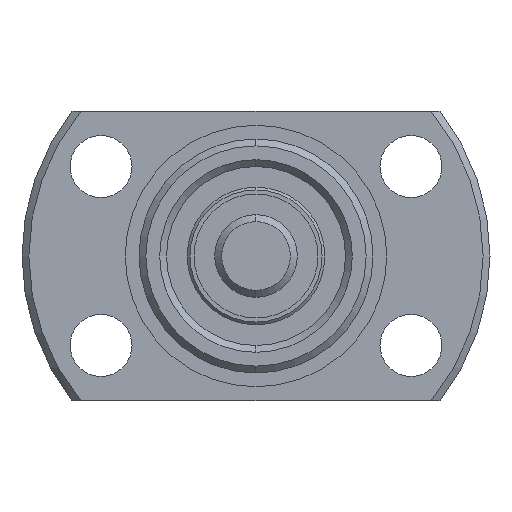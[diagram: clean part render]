
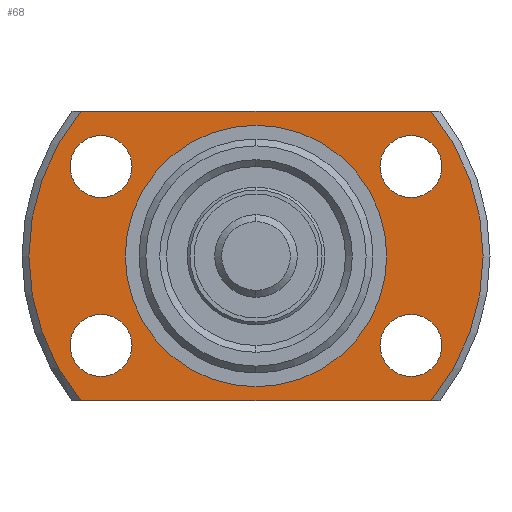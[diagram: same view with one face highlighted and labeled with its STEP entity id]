
A CAD part, left-side view. The second image highlights one B-rep face of the part: STEP entity #68.
In plain terms, the highlighted planar face has unit normal (-1, 0, 0).
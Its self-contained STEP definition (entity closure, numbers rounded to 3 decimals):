
#68 = ADVANCED_FACE ( 'NONE', ( #2723, #2724, #2736, #2734, #2721, #2725 ), #750, .T. ) ;
#185 = AXIS2_PLACEMENT_3D ( 'NONE', #2244, #2232, #2233 ) ;
#186 = AXIS2_PLACEMENT_3D ( 'NONE', #2240, #2220, #2243 ) ;
#188 = AXIS2_PLACEMENT_3D ( 'NONE', #2272, #2274, #2286 ) ;
#190 = AXIS2_PLACEMENT_3D ( 'NONE', #2297, #2303, #2304 ) ;
#196 = AXIS2_PLACEMENT_3D ( 'NONE', #2076, #2070, #2075 ) ;
#220 = AXIS2_PLACEMENT_3D ( 'NONE', #2194, #2193, #2192 ) ;
#221 = AXIS2_PLACEMENT_3D ( 'NONE', #2181, #2179, #2178 ) ;
#222 = AXIS2_PLACEMENT_3D ( 'NONE', #2163, #2162, #2160 ) ;
#223 = AXIS2_PLACEMENT_3D ( 'NONE', #2159, #2156, #2155 ) ;
#224 = AXIS2_PLACEMENT_3D ( 'NONE', #2154, #2153, #2148 ) ;
#225 = AXIS2_PLACEMENT_3D ( 'NONE', #2143, #2142, #2141 ) ;
#226 = AXIS2_PLACEMENT_3D ( 'NONE', #2133, #2132, #2130 ) ;
#385 = AXIS2_PLACEMENT_3D ( 'NONE', #748, #754, #747 ) ;
#524 = VERTEX_POINT ( 'NONE', #1570 ) ;
#532 = VERTEX_POINT ( 'NONE', #1563 ) ;
#549 = VERTEX_POINT ( 'NONE', #1541 ) ;
#552 = VERTEX_POINT ( 'NONE', #1535 ) ;
#576 = VERTEX_POINT ( 'NONE', #1516 ) ;
#579 = VERTEX_POINT ( 'NONE', #1517 ) ;
#593 = VERTEX_POINT ( 'NONE', #1510 ) ;
#595 = VERTEX_POINT ( 'NONE', #1496 ) ;
#600 = VERTEX_POINT ( 'NONE', #1491 ) ;
#605 = VERTEX_POINT ( 'NONE', #1487 ) ;
#608 = VERTEX_POINT ( 'NONE', #1490 ) ;
#632 = VERTEX_POINT ( 'NONE', #1961 ) ;
#637 = VERTEX_POINT ( 'NONE', #1962 ) ;
#747 = DIRECTION ( 'NONE',  ( 0., 0., 1. ) ) ;
#748 = CARTESIAN_POINT ( 'NONE',  ( -5., 16.5, 0. ) ) ;
#750 = PLANE ( 'NONE',  #385 ) ;
#754 = DIRECTION ( 'NONE',  ( -1., 0., 0. ) ) ;
#905 = VECTOR ( 'NONE', #2129, 1000. ) ;
#907 = VECTOR ( 'NONE', #2144, 1000. ) ;
#909 = LINE ( 'NONE', #2147, #907 ) ;
#910 = CIRCLE ( 'NONE', #226, 9.5 ) ;
#911 = CIRCLE ( 'NONE', #225, 2.25 ) ;
#912 = CIRCLE ( 'NONE', #224, 2.25 ) ;
#913 = CIRCLE ( 'NONE', #223, 2.25 ) ;
#914 = CIRCLE ( 'NONE', #221, 16.5 ) ;
#915 = CIRCLE ( 'NONE', #222, 2.25 ) ;
#917 = LINE ( 'NONE', #2140, #905 ) ;
#920 = CIRCLE ( 'NONE', #220, 16.5 ) ;
#990 = CIRCLE ( 'NONE', #196, 9.5 ) ;
#1011 = CIRCLE ( 'NONE', #190, 2.25 ) ;
#1015 = CIRCLE ( 'NONE', #186, 2.25 ) ;
#1017 = CIRCLE ( 'NONE', #185, 2.25 ) ;
#1024 = CIRCLE ( 'NONE', #188, 2.25 ) ;
#1076 = ORIENTED_EDGE ( 'NONE', *, *, #2382, .T. ) ;
#1077 = ORIENTED_EDGE ( 'NONE', *, *, #2435, .F. ) ;
#1078 = ORIENTED_EDGE ( 'NONE', *, *, #2437, .F. ) ;
#1079 = ORIENTED_EDGE ( 'NONE', *, *, #2443, .F. ) ;
#1086 = ORIENTED_EDGE ( 'NONE', *, *, #2446, .T. ) ;
#1089 = ORIENTED_EDGE ( 'NONE', *, *, #2444, .T. ) ;
#1091 = ORIENTED_EDGE ( 'NONE', *, *, #2445, .T. ) ;
#1487 = CARTESIAN_POINT ( 'NONE',  ( -5., 11.258, -4.25 ) ) ;
#1490 = CARTESIAN_POINT ( 'NONE',  ( -5., 12.728, 10.5 ) ) ;
#1491 = CARTESIAN_POINT ( 'NONE',  ( -5., -12.728, 10.5 ) ) ;
#1496 = CARTESIAN_POINT ( 'NONE',  ( -5., -11.258, 4.25 ) ) ;
#1510 = CARTESIAN_POINT ( 'NONE',  ( -5., 11.258, 4.25 ) ) ;
#1516 = CARTESIAN_POINT ( 'NONE',  ( -5., 12.728, -10.5 ) ) ;
#1517 = CARTESIAN_POINT ( 'NONE',  ( -5., -12.728, -10.5 ) ) ;
#1535 = CARTESIAN_POINT ( 'NONE',  ( -5., 0., 9.5 ) ) ;
#1541 = CARTESIAN_POINT ( 'NONE',  ( -5., 0., -9.5 ) ) ;
#1563 = CARTESIAN_POINT ( 'NONE',  ( -5., -11.258, -8.75 ) ) ;
#1570 = CARTESIAN_POINT ( 'NONE',  ( -5., -11.258, 8.75 ) ) ;
#1960 = CARTESIAN_POINT ( 'NONE',  ( -5., -11.258, -4.25 ) ) ;
#1961 = CARTESIAN_POINT ( 'NONE',  ( -5., 11.258, 8.75 ) ) ;
#1962 = CARTESIAN_POINT ( 'NONE',  ( -5., 11.258, -8.75 ) ) ;
#2070 = DIRECTION ( 'NONE',  ( 1., 0., 0. ) ) ;
#2075 = DIRECTION ( 'NONE',  ( 0., 0., -1. ) ) ;
#2076 = CARTESIAN_POINT ( 'NONE',  ( -5., 0., 0. ) ) ;
#2129 = DIRECTION ( 'NONE',  ( 0., -1., 0. ) ) ;
#2130 = DIRECTION ( 'NONE',  ( 0., 0., -1. ) ) ;
#2132 = DIRECTION ( 'NONE',  ( 1., 0., 0. ) ) ;
#2133 = CARTESIAN_POINT ( 'NONE',  ( -5., 0., 0. ) ) ;
#2140 = CARTESIAN_POINT ( 'NONE',  ( -5., 16.5, -10.5 ) ) ;
#2141 = DIRECTION ( 'NONE',  ( 0., 0., 1. ) ) ;
#2142 = DIRECTION ( 'NONE',  ( -1., 0., 0. ) ) ;
#2143 = CARTESIAN_POINT ( 'NONE',  ( -5., 11.258, -6.5 ) ) ;
#2144 = DIRECTION ( 'NONE',  ( 0., 1., 0. ) ) ;
#2147 = CARTESIAN_POINT ( 'NONE',  ( -5., 16.5, 10.5 ) ) ;
#2148 = DIRECTION ( 'NONE',  ( 0., 0., 1. ) ) ;
#2153 = DIRECTION ( 'NONE',  ( -1., 0., 0. ) ) ;
#2154 = CARTESIAN_POINT ( 'NONE',  ( -5., 11.258, 6.5 ) ) ;
#2155 = DIRECTION ( 'NONE',  ( 0., 0., 1. ) ) ;
#2156 = DIRECTION ( 'NONE',  ( -1., 0., 0. ) ) ;
#2159 = CARTESIAN_POINT ( 'NONE',  ( -5., -11.258, 6.5 ) ) ;
#2160 = DIRECTION ( 'NONE',  ( 0., 0., 1. ) ) ;
#2162 = DIRECTION ( 'NONE',  ( -1., 0., 0. ) ) ;
#2163 = CARTESIAN_POINT ( 'NONE',  ( -5., -11.258, -6.5 ) ) ;
#2178 = DIRECTION ( 'NONE',  ( 0., 0., -1. ) ) ;
#2179 = DIRECTION ( 'NONE',  ( 1., 0., 0. ) ) ;
#2181 = CARTESIAN_POINT ( 'NONE',  ( -5., 0., 0. ) ) ;
#2192 = DIRECTION ( 'NONE',  ( 0., 0., -1. ) ) ;
#2193 = DIRECTION ( 'NONE',  ( 1., 0., 0. ) ) ;
#2194 = CARTESIAN_POINT ( 'NONE',  ( -5., 0., 0. ) ) ;
#2220 = DIRECTION ( 'NONE',  ( -1., 0., 0. ) ) ;
#2232 = DIRECTION ( 'NONE',  ( -1., 0., 0. ) ) ;
#2233 = DIRECTION ( 'NONE',  ( 0., 0., 1. ) ) ;
#2240 = CARTESIAN_POINT ( 'NONE',  ( -5., -11.258, 6.5 ) ) ;
#2243 = DIRECTION ( 'NONE',  ( 0., 0., 1. ) ) ;
#2244 = CARTESIAN_POINT ( 'NONE',  ( -5., -11.258, -6.5 ) ) ;
#2272 = CARTESIAN_POINT ( 'NONE',  ( -5., 11.258, 6.5 ) ) ;
#2274 = DIRECTION ( 'NONE',  ( -1., 0., 0. ) ) ;
#2286 = DIRECTION ( 'NONE',  ( 0., 0., 1. ) ) ;
#2297 = CARTESIAN_POINT ( 'NONE',  ( -5., 11.258, -6.5 ) ) ;
#2303 = DIRECTION ( 'NONE',  ( -1., 0., 0. ) ) ;
#2304 = DIRECTION ( 'NONE',  ( 0., 0., 1. ) ) ;
#2360 = EDGE_CURVE ( 'NONE', #532, #3027, #1017, .T. ) ;
#2362 = EDGE_CURVE ( 'NONE', #595, #524, #1015, .T. ) ;
#2366 = EDGE_CURVE ( 'NONE', #593, #632, #1024, .T. ) ;
#2370 = EDGE_CURVE ( 'NONE', #637, #605, #1011, .T. ) ;
#2382 = EDGE_CURVE ( 'NONE', #552, #549, #990, .T. ) ;
#2435 = EDGE_CURVE ( 'NONE', #600, #579, #920, .T. ) ;
#2437 = EDGE_CURVE ( 'NONE', #576, #608, #914, .T. ) ;
#2440 = EDGE_CURVE ( 'NONE', #3027, #532, #915, .T. ) ;
#2441 = EDGE_CURVE ( 'NONE', #524, #595, #913, .T. ) ;
#2442 = EDGE_CURVE ( 'NONE', #632, #593, #912, .T. ) ;
#2443 = EDGE_CURVE ( 'NONE', #605, #637, #911, .T. ) ;
#2444 = EDGE_CURVE ( 'NONE', #549, #552, #910, .T. ) ;
#2445 = EDGE_CURVE ( 'NONE', #600, #608, #909, .T. ) ;
#2446 = EDGE_CURVE ( 'NONE', #576, #579, #917, .T. ) ;
#2721 = FACE_BOUND ( 'NONE', #2903, .T. ) ;
#2723 = FACE_BOUND ( 'NONE', #2951, .T. ) ;
#2724 = FACE_BOUND ( 'NONE', #2946, .T. ) ;
#2725 = FACE_OUTER_BOUND ( 'NONE', #2928, .T. ) ;
#2734 = FACE_BOUND ( 'NONE', #2955, .T. ) ;
#2736 = FACE_BOUND ( 'NONE', #2956, .T. ) ;
#2888 = ORIENTED_EDGE ( 'NONE', *, *, #2440, .F. ) ;
#2889 = ORIENTED_EDGE ( 'NONE', *, *, #2360, .F. ) ;
#2890 = ORIENTED_EDGE ( 'NONE', *, *, #2362, .F. ) ;
#2891 = ORIENTED_EDGE ( 'NONE', *, *, #2441, .F. ) ;
#2892 = ORIENTED_EDGE ( 'NONE', *, *, #2366, .F. ) ;
#2893 = ORIENTED_EDGE ( 'NONE', *, *, #2370, .F. ) ;
#2894 = ORIENTED_EDGE ( 'NONE', *, *, #2442, .F. ) ;
#2903 = EDGE_LOOP ( 'NONE', ( #1089, #1076 ) ) ;
#2928 = EDGE_LOOP ( 'NONE', ( #1077, #1091, #1078, #1086 ) ) ;
#2946 = EDGE_LOOP ( 'NONE', ( #2890, #2891 ) ) ;
#2951 = EDGE_LOOP ( 'NONE', ( #2889, #2888 ) ) ;
#2955 = EDGE_LOOP ( 'NONE', ( #2893, #1079 ) ) ;
#2956 = EDGE_LOOP ( 'NONE', ( #2892, #2894 ) ) ;
#3027 = VERTEX_POINT ( 'NONE', #1960 ) ;
